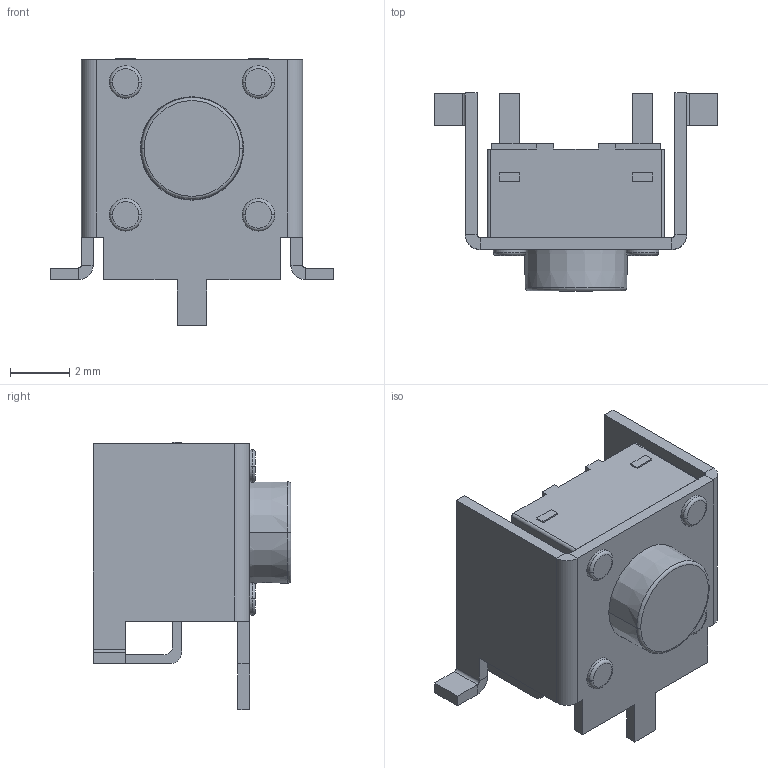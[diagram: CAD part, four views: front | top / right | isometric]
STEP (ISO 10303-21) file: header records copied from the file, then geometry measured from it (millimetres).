
FILE_DESCRIPTION((''),'2;1');
FILE_NAME('JQD7566XL-B0601-01G-1-101_ASM','2026-05-25T15:21:46',('Admin'),(''),'CREO PARAMETRIC BY PTC INC, 2019224','CREO PARAMETRIC BY PTC INC, 2019224','');
FILE_SCHEMA(('AUTOMOTIVE_DESIGN { 1 0 10303 214 1 1 1 1 }'));
Length unit declared in the file: millimetre
Products named in the file (3): JQD7566XL-B0601-01G-1-101_04; JQD7566XL-B0601-01G-1-101_05; JQD7566XL-B0601-01G-1-101_ASM
Assembly tree (2 placements, depth 2):
  JQD7566XL-B0601-01G-1-101_ASM
    JQD7566XL-B0601-01G-1-101_04
    JQD7566XL-B0601-01G-1-101_05
Bounding box: 9.6 x 6.7 x 9.05 mm (x, y, z)
Volume: 173.2 mm3; surface area: 443.2 mm2
Topology: 2 solids, 2 shells, 159 faces, 394 edges, 262 vertices
Faces by surface type: plane 105, cylinder 42, torus 10, cone 2
Entity records: 5641 total; most frequent: DIRECTION 842, CARTESIAN_POINT 813, ORIENTED_EDGE 768, EDGE_CURVE 384, VECTOR 286, LINE 286, AXIS2_PLACEMENT_3D 278, PRESENTATION_STYLE_ASSIGNMENT 256
